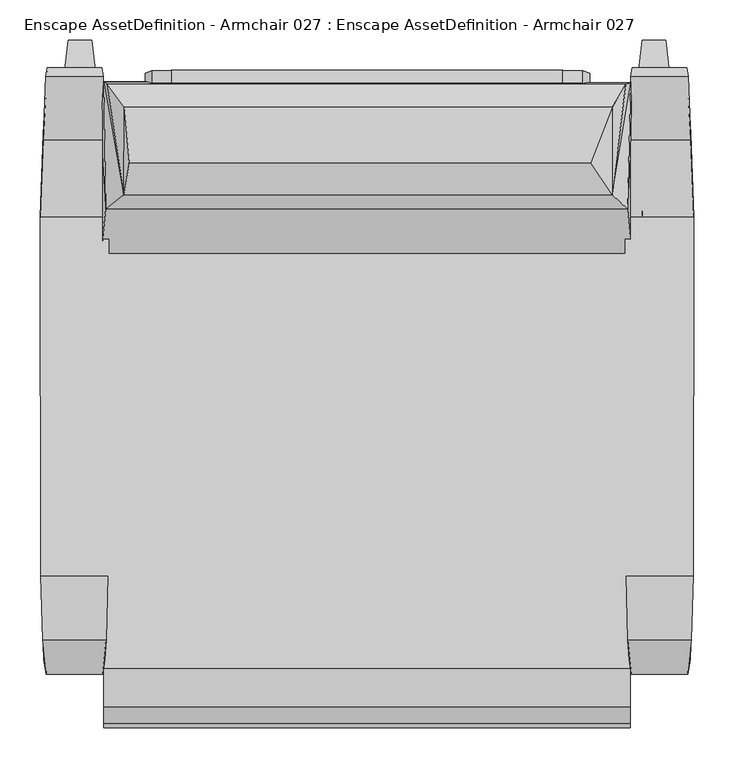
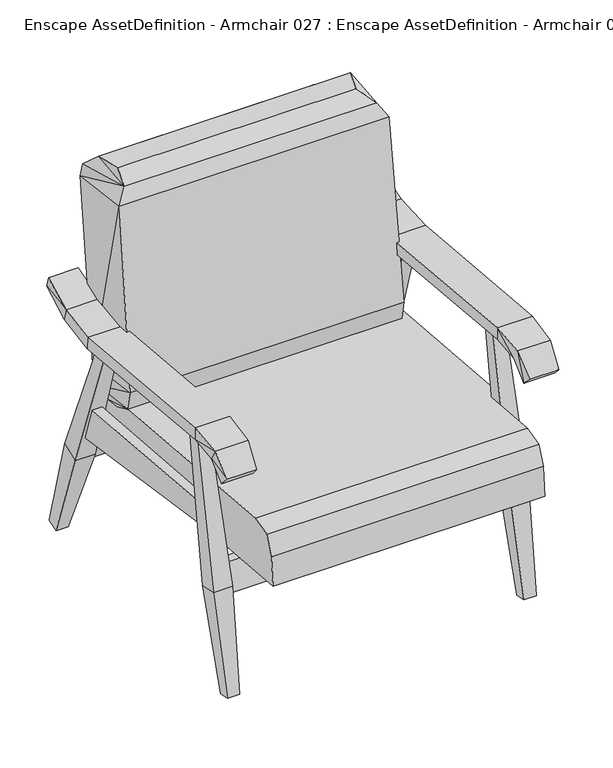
"""IFC4 building model written with IfcOpenShell, lengths in millimetres: geographic element geometry, Enscape AssetDefinition - Armchair 027 : Enscape AssetDefinition - Armchair 027."""

from ifc_helpers import new_model, si_unit, origin, place, context, project, spatial, triangles, source, transform, mapped, element, save


def enscape_assetdefinition_armchair_027_enscape_assetdefinition_4c4723be(model_context):
    return source(origin(), model_context, "Body", "Tessellation", [
        triangles([(328.3385342, 274.4547956, 281.3135157), (328.3384615, -451.3557346, 341.9490406), (-328.3383888, 285.6509326, 415.3305353), (328.3384978, 285.6508236, 415.330608), (-328.3383888, 274.4548864, 281.3133885), (328.3383888, -425.8920273, 459.0972679), (-328.3385342, -377.8864546, 470.7636343), (-328.3385342, -451.3555893, 341.9489316), (-328.3385342, -445.3619871, 413.6929173), (328.3383888, -377.8865636, 470.7637433), (328.3383888, -445.3621325, 413.6930263), (-328.3385342, -425.8919183, 459.0971589), (329.036275, 353.7475937, 900.5440144), (-331.9265782, 296.5778638, 457.6167624), (-328.1879256, 354.4528559, 900.4571737), (325.1945037, 195.4609436, 917.7509583), (-326.0298815, 195.3642198, 917.7628761), (-303.6069224, 213.750107, 949.6537348), (-296.6872139, 253.7774421, 970.0737093), (-323.9411645, 351.4658652, 931.52083), (323.0993917, 351.4658652, 931.52083), (305.7179672, 322.9778875, 960.5227661), (305.7179672, 213.750107, 949.6537348), (279.460958, 253.7774421, 970.0737093), (-302.8349855, 322.9778875, 960.5227661), (330.651329, 296.4948747, 457.6292979), (330.8135284, 275.9098121, 414.9823008), (330.1947072, 140.8405584, 476.7994577), (330.6993276, 150.1642626, 430.4702362), (-331.6683818, 140.8289675, 476.7998211), (-332.3019914, 275.9305776, 414.9791759), (330.8675222, 192.8351409, 410.1540344), (-332.2374604, 150.161383, 430.4703452), (-332.4271291, 229.4851931, 405.6397388), (-332.4271291, 192.8351409, 410.1540344), (330.8675222, 229.4851931, 405.6397388), (-404.7197731, -341.3891547, 646.3713747), (-403.0600634, -366.1854609, 578.3426056), (-327.0035139, -366.1854609, 578.3426056), (-400.2160872, -384.7635057, 598.9021791), (-404.7197731, -327.1494352, 618.6179815), (-329.84749, -384.7635057, 598.9021791), (-406.8029672, -260.9504236, 628.4250864), (-325.3438042, -341.3891547, 646.3713747), (-325.3438042, -327.1494352, 618.6179815), (-406.8029672, -261.7975739, 658.1626608), (-323.2606101, -260.9504236, 628.4250864), (-322.1518478, 187.0328424, 587.9446721), (-323.2605738, -261.7975739, 658.1627335), (-407.9115841, 186.5617229, 617.6482733), (-325.8562729, 282.3139997, 629.3730663), (-322.1518478, 186.5617229, 617.6482733), (-404.20705, 282.3139997, 629.3730663), (-407.9115478, 187.0328424, 587.9446721), (-329.3816028, 361.5251349, 661.0575422), (-325.8562729, 289.7178174, 600.5183596), (-404.20705, 289.7178174, 600.5183596), (-398.8615188, 372.4962313, 633.6297106), (-400.6817202, 361.5251349, 661.0575422), (-331.2018042, 372.4962313, 633.6297106), (-372.841232, -175.0819004, 619.4127731), (-343.3005569, -203.9645669, 625.6129761), (-372.8411957, -203.9645669, 625.6129761), (-343.3005206, -308.7165487, -3.1001415), (-381.0573003, -248.4440286, 238.5232678), (-335.0848884, -293.3932835, 248.1724972), (-335.0839437, -248.4444464, 238.5233768), (-343.3005206, -337.5991608, 3.1000992), (-343.3005569, -175.0819004, 619.4127731), (-381.0573003, -293.3928293, 248.1724245), (-372.8411593, -337.5991608, 3.1001367), (-372.8411593, -308.7165487, -3.100104), (-371.7219326, -218.969683, 429.7309645), (-348.1869956, 272.9843548, 303.1395999), (-371.7077256, 272.9844093, 303.1342587), (-371.7362486, 254.2599708, 391.102472), (-371.7219326, -226.2568109, 376.9213609), (-348.2154459, 254.25988, 391.1077769), (-348.2011662, -218.9696649, 429.7309645), (-348.2011662, -226.2567746, 376.9213609), (-372.841341, 188.7394607, 610.4889719), (-343.3007023, 188.7394607, 610.4890446), (-372.841341, 160.9456085, 600.4814069), (-381.8216795, 282.9064417, 235.2424543), (-381.8250223, 327.6020602, 251.3357125), (-334.3203638, 327.6032593, 251.3422347), (-343.3007023, 160.9456085, 600.4814432), (-372.8396333, 378.9585185, -5.0088615), (-343.2989582, 378.9585185, -4.9986814), (-372.8431214, 406.7524252, 4.9986769), (-343.3024464, 406.7524252, 5.0088569), (-334.3170573, 282.9076045, 235.2489946), (329.8473447, -384.7636147, 598.9022882), (400.2159419, -384.7636147, 598.9022882), (406.8028218, -261.7976648, 658.1628061), (404.7195914, -341.3892637, 646.37152), (325.3436952, -341.3892637, 646.37152), (327.0034412, -366.18557, 578.3427509), (403.0598454, -366.18557, 578.3427873), (325.3436952, -327.1495806, 618.6180542), (323.2604648, -260.9505326, 628.4252317), (404.7195914, -327.1495806, 618.6180542), (323.2604648, -261.7976648, 658.1628061), (407.9116204, 186.5615776, 617.6484186), (322.1518478, 186.5616139, 617.6484186), (406.8028218, -260.9505326, 628.4252317), (322.1518842, 187.0327334, 587.9448174), (407.9116931, 187.0326789, 587.9448538), (404.207268, 289.7176721, 600.5184686), (404.207268, 282.3138544, 629.3732117), (325.8563456, 282.3138907, 629.373139), (331.2019132, 372.4960859, 633.6297832), (325.8563456, 289.7177084, 600.5184686), (398.8615914, 372.4960859, 633.6297832), (400.6818655, 361.5250259, 661.0576149), (329.3817118, 361.5250259, 661.0576149), (372.8411957, -175.0820457, 619.4129185), (372.8411957, -203.964676, 625.6131214), (343.3005569, -175.0820094, 619.4129185), (343.3005569, -203.964676, 625.6131214), (381.0573366, -248.4441557, 238.5233768), (335.0840527, -248.4445736, 238.523504), (343.3005933, -308.7166214, -3.1000288), (335.0848884, -293.3934106, 248.1726062), (381.0573366, -293.3929201, 248.1725335), (372.8412683, -337.5992334, 3.1002494), (372.8412683, -308.7166214, -3.0999913), (343.3005933, -337.5992334, 3.1002119), (348.2011662, -226.2568836, 376.9215062), (371.7219689, -218.9698102, 429.7310735), (371.7219689, -226.2569199, 376.9215062), (371.7079073, 272.9843184, 303.1343858), (348.1871046, 272.9842276, 303.1397089), (371.7363939, 254.2598618, 391.1025084), (348.2155912, 254.2597891, 391.1078496), (348.2011662, -218.9697557, 429.7310735), (372.841341, 188.7393517, 610.4891172), (343.3007023, 160.9454813, 600.4815522), (343.3007023, 188.7393517, 610.4891172), (372.841341, 160.9454813, 600.4815522), (381.8252767, 327.6019512, 251.3358215), (343.3028097, 406.7522799, 5.0089693), (334.317239, 282.9074773, 235.2491036), (334.3206182, 327.6031139, 251.3423618), (381.8218612, 282.9063327, 235.2425633), (372.8434484, 406.7522799, 4.9987899), (372.839924, 378.9584458, -5.0087485), (343.2992852, 378.9584458, -4.998569), (-345.7028449, -289.0564479, 228.7685217), (345.7028449, -245.798169, 293.879591), (-345.7028449, -260.0981682, 222.9317958), (345.7028449, -289.0564479, 228.7685217), (345.7028449, -274.7564668, 299.7163168), (-345.7028449, -274.7564668, 299.7163168), (345.7028449, -260.0981682, 222.9317958), (-345.7028449, -245.798169, 293.879591), (-345.7028449, 273.533758, 285.9321291), (345.7028449, 301.3132579, 295.9794628), (345.7028449, 273.533758, 285.9321291), (345.7028449, 325.9292336, 227.9196818), (-345.7028449, 301.3132579, 295.9794628), (345.7028449, 298.1496974, 217.8723481), (-345.7028449, 298.1496974, 217.8723481), (-345.7028449, 325.9292336, 227.9196818), (-268.3960811, 352.8993896, 916.2614416), (-276.7097633, 350.1708498, 891.4700043), (-276.7097633, 283.7314277, 287.8114657), (-268.3960811, 368.1840308, 914.5617634), (-276.7097633, 365.455491, 889.7704714), (-276.7097633, 299.0160507, 286.1118965), (-243.4549617, 369.0936047, 922.8255758), (-243.4549617, 353.8089272, 924.5252541), (277.7520144, 299.0160507, 286.1118965), (244.4972128, 369.0936047, 922.8255758), (244.4972128, 353.8089272, 924.5252541), (269.4383321, 368.1840308, 914.5617634), (277.7520144, 283.7314277, 287.8114657), (269.4383321, 352.8993896, 916.2614416), (277.7520144, 365.455491, 889.7704714), (277.7520144, 350.1708498, 891.4700043)], [[179, 180, 177], [177, 180, 178], [178, 180, 179], [177, 178, 175], [179, 176, 178], [175, 178, 176], [177, 173, 179], [176, 179, 173], [176, 174, 175], [174, 176, 173], [177, 175, 172], [172, 175, 174], [174, 171, 172], [174, 173, 170], [168, 171, 170], [171, 174, 170], [170, 173, 177], [169, 168, 170], [168, 169, 166], [166, 165, 168], [165, 172, 171], [171, 168, 165], [169, 170, 167], [177, 167, 170], [167, 172, 165], [167, 177, 172], [166, 169, 167], [167, 165, 166], [162, 160, 158], [161, 164, 163], [162, 163, 164], [160, 164, 161], [158, 161, 157], [159, 157, 163], [158, 159, 162], [157, 161, 163], [164, 160, 162], [161, 158, 160], [157, 159, 158], [163, 162, 159], [152, 155, 150], [156, 151, 149], [152, 149, 151], [155, 151, 156], [150, 156, 154], [153, 154, 149], [150, 153, 152], [154, 156, 149], [151, 155, 152], [156, 150, 155], [154, 153, 150], [149, 152, 153], [147, 143, 148], [146, 148, 142], [148, 146, 147], [146, 145, 147], [145, 143, 147], [145, 138, 143], [138, 139, 143], [148, 144, 142], [143, 139, 144], [143, 144, 148], [142, 141, 146], [144, 141, 142], [141, 145, 146], [141, 140, 145], [140, 138, 145], [138, 137, 139], [144, 137, 141], [140, 137, 138], [139, 137, 144], [137, 140, 141], [133, 131, 129], [129, 135, 133], [135, 129, 136], [134, 133, 135], [136, 134, 135], [133, 134, 132], [131, 133, 132], [129, 130, 136], [134, 136, 130], [132, 130, 131], [131, 130, 129], [130, 132, 134], [126, 124, 128], [127, 128, 123], [128, 127, 126], [127, 125, 126], [125, 124, 126], [125, 120, 124], [120, 119, 124], [128, 122, 123], [124, 119, 122], [124, 122, 128], [123, 121, 127], [122, 121, 123], [121, 125, 127], [121, 118, 125], [118, 120, 125], [120, 117, 119], [122, 117, 121], [118, 117, 120], [119, 117, 122], [117, 118, 121], [112, 115, 114], [115, 112, 116], [111, 115, 116], [115, 111, 110], [110, 114, 115], [114, 110, 109], [109, 112, 114], [116, 113, 111], [112, 109, 113], [113, 116, 112], [107, 111, 113], [111, 107, 105], [105, 110, 111], [110, 105, 104], [104, 109, 110], [113, 108, 107], [109, 104, 108], [108, 113, 109], [106, 107, 108], [107, 106, 101], [101, 105, 107], [102, 101, 106], [105, 101, 103], [103, 104, 105], [104, 103, 95], [108, 95, 106], [95, 108, 104], [97, 95, 103], [103, 100, 97], [101, 102, 100], [100, 103, 101], [99, 100, 102], [100, 99, 98], [98, 97, 100], [97, 98, 93], [95, 97, 96], [106, 96, 102], [96, 106, 95], [93, 96, 97], [98, 94, 93], [96, 93, 94], [102, 94, 99], [99, 94, 98], [94, 102, 96], [88, 89, 92], [90, 91, 89], [89, 88, 90], [90, 88, 84], [84, 88, 92], [84, 92, 87], [87, 92, 82], [89, 91, 86], [92, 86, 82], [92, 89, 86], [91, 90, 85], [86, 91, 85], [85, 90, 84], [85, 84, 83], [83, 84, 87], [87, 82, 81], [86, 85, 81], [83, 87, 81], [82, 86, 81], [81, 85, 83], [78, 79, 80], [80, 74, 78], [74, 80, 77], [77, 75, 74], [76, 78, 74], [74, 75, 76], [79, 78, 76], [80, 79, 73], [76, 73, 79], [75, 77, 73], [77, 80, 73], [73, 76, 75], [71, 68, 66], [72, 64, 68], [68, 71, 72], [72, 71, 70], [70, 71, 66], [70, 66, 62], [62, 66, 69], [68, 64, 67], [66, 67, 69], [66, 68, 67], [64, 72, 65], [67, 64, 65], [65, 72, 70], [65, 70, 63], [63, 70, 62], [62, 69, 61], [67, 65, 61], [63, 62, 61], [69, 67, 61], [61, 65, 63], [59, 55, 60], [60, 58, 59], [57, 58, 60], [58, 57, 53], [53, 59, 58], [59, 53, 51], [51, 55, 59], [55, 51, 56], [60, 56, 57], [56, 60, 55], [54, 57, 56], [57, 54, 50], [50, 53, 57], [53, 50, 52], [52, 51, 53], [51, 52, 48], [56, 48, 54], [48, 56, 51], [43, 54, 48], [54, 43, 46], [46, 50, 54], [37, 46, 43], [50, 46, 49], [49, 52, 50], [52, 49, 47], [48, 47, 43], [47, 48, 52], [45, 47, 49], [46, 37, 44], [49, 44, 45], [44, 49, 46], [42, 44, 37], [44, 42, 39], [39, 45, 44], [45, 39, 38], [47, 45, 41], [43, 41, 37], [41, 43, 47], [38, 41, 45], [39, 42, 40], [37, 40, 42], [41, 38, 40], [38, 39, 40], [40, 37, 41], [34, 36, 32], [34, 32, 35], [34, 35, 33], [33, 35, 32], [32, 29, 33], [27, 29, 32], [27, 36, 34], [36, 27, 32], [34, 31, 27], [31, 34, 33], [31, 33, 30], [30, 33, 29], [29, 28, 30], [26, 28, 29], [27, 26, 29], [26, 27, 31], [26, 13, 16], [30, 28, 16], [26, 16, 28], [22, 25, 19], [22, 19, 24], [22, 24, 23], [13, 23, 16], [23, 24, 19], [23, 21, 22], [13, 21, 23], [22, 21, 20], [20, 25, 22], [19, 18, 23], [18, 19, 25], [16, 23, 18], [25, 20, 18], [18, 17, 16], [30, 16, 17], [15, 17, 18], [21, 13, 15], [20, 15, 18], [15, 20, 21], [31, 14, 26], [14, 30, 17], [14, 15, 13], [14, 31, 30], [15, 14, 17], [14, 13, 26], [7, 12, 6], [12, 9, 11], [4, 1, 5], [10, 4, 3], [2, 11, 9], [1, 2, 8], [1, 4, 10], [1, 6, 11], [1, 10, 6], [5, 8, 9], [5, 12, 7], [5, 9, 12], [6, 10, 7], [11, 6, 12], [4, 5, 3], [10, 3, 7], [2, 9, 8], [1, 8, 5], [5, 7, 3], [1, 11, 2]]),
    ])


if __name__ == "__main__":
    model = new_model("IFC4")
    model_context = context("Model", 3, world=origin())
    ifc_project = project(units=[si_unit("LENGTHUNIT", "METRE", prefix="MILLI")], contexts=[model_context])
    site = spatial("IfcSite", under=ifc_project)
    building = spatial("IfcBuilding", under=site)
    placement = place(None, origin())
    enscape_assetdefinition_armchair_027_enscape_assetdefinition_shape = enscape_assetdefinition_armchair_027_enscape_assetdefinition_4c4723be(model_context)
    element("IfcGeographicElement", 1, ObjectType="Enscape AssetDefinition - Armchair 027 : Enscape AssetDefinition - Armchair 027", at=placement, inside=building, context=model_context, shape_type="MappedRepresentation", body=[
        mapped(enscape_assetdefinition_armchair_027_enscape_assetdefinition_shape, transform((0.0, 0.0, 0.0), x_axis=(1.0, 0.0, 0.0), y_axis=(0.0, 1.0, 0.0), z_axis=(0.0, 0.0, 1.0))),
    ])
    save(model, "model.ifc")
